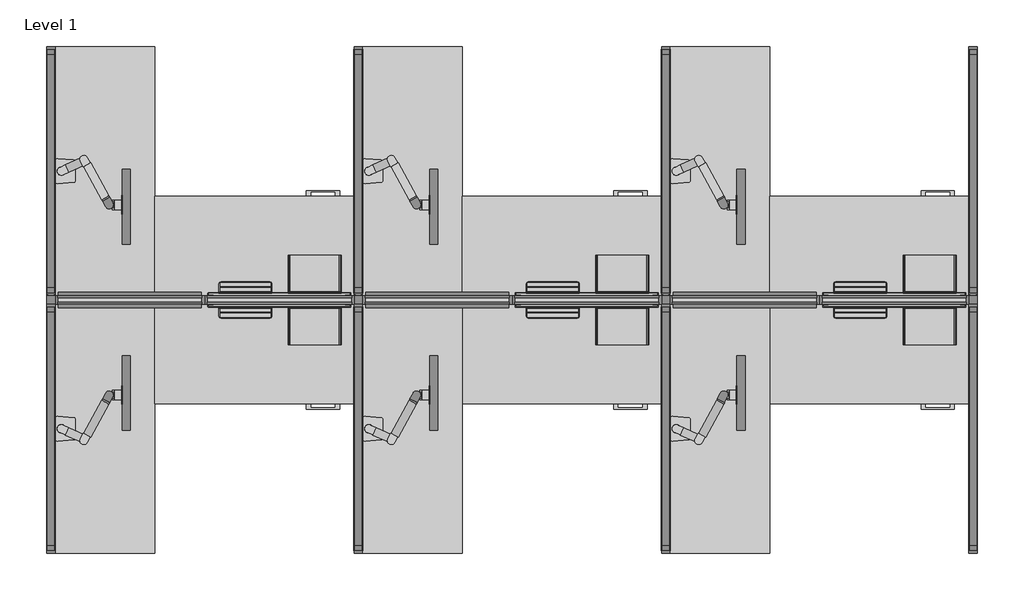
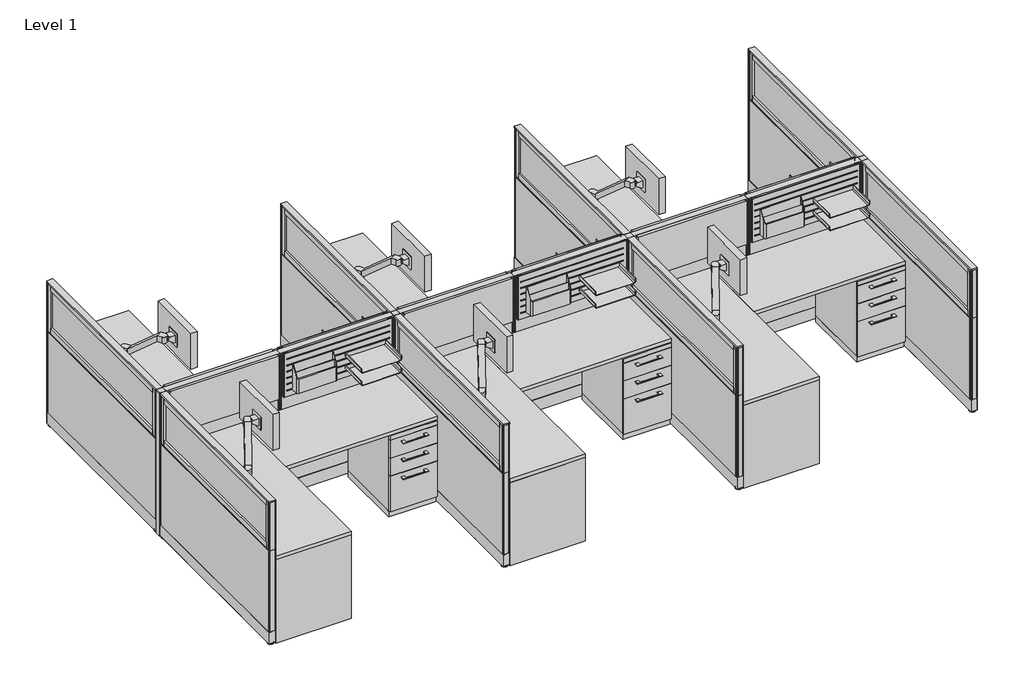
# One storey, incomplete: 80 furniture elements.
"""IFC4 building model written with IfcOpenShell, lengths in millimetres."""

from ifc_helpers import new_model, si_unit, origin, place, context, project, spatial, transform, mapped, element, save
from components import furniture_095f3b67, furniture_0ba0aaf9, furniture_16h_36w_87c6376e, furniture_16h_36w_b10e970e, furniture_16h_36w_8c3512c3, furniture_16h_36w_739b73f6, furniture_3_way_intersection_228444dd, furniture_36w_48h_2bd5d2fd, furniture_36w_48h_49c94051, furniture_4_way_intersection_cb2a0617, furniture_60w_16h_51d2d3f0, furniture_60w_16h_2723d1e0, furniture_60w_32h_4a79a10c, furniture_60w_32h_e9c478c7, haworth_belong_tool_hangingsorter_sorter_b643d65a, haworth_belong_tool_hangingsorter_sorter_caf348c0, haworth_belong_tool_trayshelf_hanging_document_tray_419b277c, haworth_belong_tool_trayshelf_hanging_document_tray_81856eff, haworth_compose_worksurface_rectangular_48w_24d_891c8413, haworth_compose_worksurface_rectangular_48w_24d_c59dcc68, haworth_compose_worksurface_rectangular_60w_24d_50b8101e, haworth_compose_worksurface_rectangular_60w_24d_3e0ca9f9, single_monitor_arm_d5a820ab, single_monitor_arm_2e3e4fff

model = new_model("IFC4")

# Units and contexts
model_context = context("Model", 3, world=origin())
ifc_project = project(units=[si_unit("LENGTHUNIT", "METRE", prefix="MILLI")], contexts=[model_context])

# Site, building, storey
site = spatial("IfcSite", under=ifc_project)
building = spatial("IfcBuilding", under=site)
storey = spatial("IfcBuildingStorey", under=building, Name="Level 1", Elevation=0.0)

# Furniture
placement = place(None, origin())
furniture_shape = furniture_095f3b67(model_context)
element("IfcFurniture", 1, ObjectType="Haworth_XSeries_Pedestal : 23d 15w 27h - Box Box File - Suspended", at=placement, inside=storey, context=model_context, shape_type="MappedRepresentation", body=[
    mapped(furniture_shape, transform((344.244681, -664.8927084, 0.0), x_axis=(1.0, 0.0, 0.0), y_axis=(0.0, 1.0, 0.0), z_axis=(0.0, 0.0, 1.0))),
])
element("IfcFurniture", 2, ObjectType="Haworth_XSeries_Pedestal : 23d 15w 27h - Box Box File - Suspended", at=placement, inside=storey, context=model_context, shape_type="MappedRepresentation", body=[
    mapped(furniture_shape, transform((2223.8796082, -664.8927084, 0.0), x_axis=(1.0, 0.0, 0.0), y_axis=(0.0, 1.0, 0.0), z_axis=(0.0, 0.0, 1.0))),
])
element("IfcFurniture", 3, ObjectType="Haworth_XSeries_Pedestal : 23d 15w 27h - Box Box File - Suspended", at=placement, inside=storey, context=model_context, shape_type="MappedRepresentation", body=[
    mapped(furniture_shape, transform((4103.4796082, -664.8927084, 0.0), x_axis=(1.0, 0.0, 0.0), y_axis=(0.0, 1.0, 0.0), z_axis=(0.0, 0.0, 1.0))),
])
furniture_2_shape = furniture_0ba0aaf9(model_context)
element("IfcFurniture", 4, ObjectType="Haworth_XSeries_Pedestal : 23d 15w 27h - Box Box File - Suspended", at=placement, inside=storey, context=model_context, shape_type="MappedRepresentation", body=[
    mapped(furniture_2_shape, transform((344.2446855, -766.492603, 0.0), x_axis=(0.9999999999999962, 8.74227783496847e-08, 0.0), y_axis=(-8.74227783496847e-08, 0.9999999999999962, 0.0), z_axis=(0.0, 0.0, 1.0))),
])
element("IfcFurniture", 5, ObjectType="Haworth_XSeries_Pedestal : 23d 15w 27h - Box Box File - Suspended", at=placement, inside=storey, context=model_context, shape_type="MappedRepresentation", body=[
    mapped(furniture_2_shape, transform((2223.8796127, -766.492603, 0.0), x_axis=(0.9999999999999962, 8.74227783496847e-08, 0.0), y_axis=(-8.74227783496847e-08, 0.9999999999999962, 0.0), z_axis=(0.0, 0.0, 1.0))),
])
element("IfcFurniture", 6, ObjectType="Haworth_XSeries_Pedestal : 23d 15w 27h - Box Box File - Suspended", at=placement, inside=storey, context=model_context, shape_type="MappedRepresentation", body=[
    mapped(furniture_2_shape, transform((4103.4796127, -766.492603, 0.0), x_axis=(0.9999999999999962, 8.74227783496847e-08, 0.0), y_axis=(-8.74227783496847e-08, 0.9999999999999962, 0.0), z_axis=(0.0, 0.0, 1.0))),
])
furniture_16h_36w_shape = furniture_16h_36w_87c6376e(model_context)
element("IfcFurniture", 7, ObjectType="Haworth_BeHold_Accessory_Tackboard : 16h 36w", at=placement, inside=storey, context=model_context, shape_type="MappedRepresentation", body=[
    mapped(furniture_16h_36w_shape, transform((-679.9786968, -387.0802084, -71.4375), x_axis=(1.0, 0.0, 0.0), y_axis=(0.0, 1.0, 0.0), z_axis=(0.0, 0.0, 1.0))),
])
element("IfcFurniture", 8, ObjectType="Haworth_BeHold_Accessory_Tackboard : 16h 36w", at=placement, inside=storey, context=model_context, shape_type="MappedRepresentation", body=[
    mapped(furniture_16h_36w_shape, transform((1199.6562304, -387.0802084, -71.4375), x_axis=(1.0, 0.0, 0.0), y_axis=(0.0, 1.0, 0.0), z_axis=(0.0, 0.0, 1.0))),
])
element("IfcFurniture", 9, ObjectType="Haworth_BeHold_Accessory_Tackboard : 16h 36w", at=placement, inside=storey, context=model_context, shape_type="MappedRepresentation", body=[
    mapped(furniture_16h_36w_shape, transform((3079.2562304, -387.0802084, -71.4375), x_axis=(1.0, 0.0, 0.0), y_axis=(0.0, 1.0, 0.0), z_axis=(0.0, 0.0, 1.0))),
])
furniture_16h_36w_2_shape = furniture_16h_36w_b10e970e(model_context)
element("IfcFurniture", 10, ObjectType="Haworth_BeHold_Accessory_SlatRail : 16h 36w", at=placement, inside=storey, context=model_context, shape_type="MappedRepresentation", body=[
    mapped(furniture_16h_36w_2_shape, transform((-79.2970075, -387.0802084, -71.4375), x_axis=(-1.0, 0.0, 0.0), y_axis=(0.0, -1.0, 0.0), z_axis=(0.0, 0.0, 1.0))),
])
element("IfcFurniture", 11, ObjectType="Haworth_BeHold_Accessory_SlatRail : 16h 36w", at=placement, inside=storey, context=model_context, shape_type="MappedRepresentation", body=[
    mapped(furniture_16h_36w_2_shape, transform((1800.3379197, -387.0802084, -71.4375), x_axis=(-1.0, 0.0, 0.0), y_axis=(0.0, -1.0, 0.0), z_axis=(0.0, 0.0, 1.0))),
])
element("IfcFurniture", 12, ObjectType="Haworth_BeHold_Accessory_SlatRail : 16h 36w", at=placement, inside=storey, context=model_context, shape_type="MappedRepresentation", body=[
    mapped(furniture_16h_36w_2_shape, transform((3679.9379197, -387.0802084, -71.4375), x_axis=(-1.0, 0.0, 0.0), y_axis=(0.0, -1.0, 0.0), z_axis=(0.0, 0.0, 1.0))),
])
furniture_16h_36w_3_shape = furniture_16h_36w_8c3512c3(model_context)
element("IfcFurniture", 13, ObjectType="Haworth_BeHold_Accessory_SlatRail : 16h 36w", at=placement, inside=storey, context=model_context, shape_type="MappedRepresentation", body=[
    mapped(furniture_16h_36w_3_shape, transform((-79.2969787, -1044.30514, -71.4375), x_axis=(-0.9999999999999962, -8.742277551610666e-08, 0.0), y_axis=(8.742277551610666e-08, -0.9999999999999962, 0.0), z_axis=(0.0, 0.0, 1.0))),
])
element("IfcFurniture", 14, ObjectType="Haworth_BeHold_Accessory_SlatRail : 16h 36w", at=placement, inside=storey, context=model_context, shape_type="MappedRepresentation", body=[
    mapped(furniture_16h_36w_3_shape, transform((1800.3379485, -1044.30514, -71.4375), x_axis=(-0.9999999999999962, -8.742277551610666e-08, 0.0), y_axis=(8.742277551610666e-08, -0.9999999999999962, 0.0), z_axis=(0.0, 0.0, 1.0))),
])
element("IfcFurniture", 15, ObjectType="Haworth_BeHold_Accessory_SlatRail : 16h 36w", at=placement, inside=storey, context=model_context, shape_type="MappedRepresentation", body=[
    mapped(furniture_16h_36w_3_shape, transform((3679.9379485, -1044.30514, -71.4375), x_axis=(-0.9999999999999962, -8.742277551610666e-08, 0.0), y_axis=(8.742277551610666e-08, -0.9999999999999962, 0.0), z_axis=(0.0, 0.0, 1.0))),
])
furniture_16h_36w_4_shape = furniture_16h_36w_739b73f6(model_context)
element("IfcFurniture", 16, ObjectType="Haworth_BeHold_Accessory_Tackboard : 16h 36w", at=placement, inside=storey, context=model_context, shape_type="MappedRepresentation", body=[
    mapped(furniture_16h_36w_4_shape, transform((-679.9786681, -1044.3051925, -71.4375), x_axis=(0.9999999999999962, 8.742278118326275e-08, 0.0), y_axis=(-8.742278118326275e-08, 0.9999999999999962, 0.0), z_axis=(0.0, 0.0, 1.0))),
])
element("IfcFurniture", 17, ObjectType="Haworth_BeHold_Accessory_Tackboard : 16h 36w", at=placement, inside=storey, context=model_context, shape_type="MappedRepresentation", body=[
    mapped(furniture_16h_36w_4_shape, transform((1199.6562592, -1044.3051925, -71.4375), x_axis=(0.9999999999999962, 8.742278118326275e-08, 0.0), y_axis=(-8.742278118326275e-08, 0.9999999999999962, 0.0), z_axis=(0.0, 0.0, 1.0))),
])
element("IfcFurniture", 18, ObjectType="Haworth_BeHold_Accessory_Tackboard : 16h 36w", at=placement, inside=storey, context=model_context, shape_type="MappedRepresentation", body=[
    mapped(furniture_16h_36w_4_shape, transform((3079.2562592, -1044.3051925, -71.4375), x_axis=(0.9999999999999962, 8.742278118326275e-08, 0.0), y_axis=(-8.742278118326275e-08, 0.9999999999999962, 0.0), z_axis=(0.0, 0.0, 1.0))),
])
furniture_3_way_intersection_shape = furniture_3_way_intersection_228444dd(model_context)
element("IfcFurniture", 19, ObjectType="Haworth_UniGroupToo_Post : 3-Way Intersection", at=placement, inside=storey, context=model_context, shape_type="MappedRepresentation", body=[
    mapped(furniture_3_way_intersection_shape, transform((-1357.5553157, -715.6927301, 0.0), x_axis=(0.9999999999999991, 4.3711388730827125e-08, 0.0), y_axis=(-4.3711388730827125e-08, 0.9999999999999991, 0.0), z_axis=(0.0, 0.0, 1.0))),
])
furniture_36w_48h_shape = furniture_36w_48h_2bd5d2fd(model_context)
element("IfcFurniture", 20, ObjectType="Haworth_UniGroupToo_Panel_Solid : 36w 48h", at=placement, inside=storey, context=model_context, shape_type="MappedRepresentation", body=[
    mapped(furniture_36w_48h_shape, transform((-839.2781423, -715.6927273, 0.0), x_axis=(1.0, 0.0, 0.0), y_axis=(0.0, 1.0, 0.0), z_axis=(0.0, 0.0, 1.0))),
])
element("IfcFurniture", 21, ObjectType="Haworth_UniGroupToo_Panel_Solid : 36w 48h", at=placement, inside=storey, context=model_context, shape_type="MappedRepresentation", body=[
    mapped(furniture_36w_48h_shape, transform((1040.3567849, -715.6927273, 0.0), x_axis=(1.0, 0.0, 0.0), y_axis=(0.0, 1.0, 0.0), z_axis=(0.0, 0.0, 1.0))),
])
element("IfcFurniture", 22, ObjectType="Haworth_UniGroupToo_Panel_Solid : 36w 48h", at=placement, inside=storey, context=model_context, shape_type="MappedRepresentation", body=[
    mapped(furniture_36w_48h_shape, transform((2919.9567849, -715.6927273, 0.0), x_axis=(1.0, 0.0, 0.0), y_axis=(0.0, 1.0, 0.0), z_axis=(0.0, 0.0, 1.0))),
])
furniture_36w_48h_2_shape = furniture_36w_48h_49c94051(model_context)
element("IfcFurniture", 23, ObjectType="Haworth_UniGroupToo_Panel_Solid : 36w 48h", at=placement, inside=storey, context=model_context, shape_type="MappedRepresentation", body=[
    mapped(furniture_36w_48h_2_shape, transform((80.002438, -715.6927273, 0.0), x_axis=(-1.0, 0.0, 0.0), y_axis=(0.0, -1.0, 0.0), z_axis=(0.0, 0.0, 1.0))),
])
element("IfcFurniture", 24, ObjectType="Haworth_UniGroupToo_Panel_Solid : 36w 48h", at=placement, inside=storey, context=model_context, shape_type="MappedRepresentation", body=[
    mapped(furniture_36w_48h_2_shape, transform((1959.6373653, -715.6927273, 0.0), x_axis=(-1.0, 0.0, 0.0), y_axis=(0.0, -1.0, 0.0), z_axis=(0.0, 0.0, 1.0))),
])
element("IfcFurniture", 25, ObjectType="Haworth_UniGroupToo_Panel_Solid : 36w 48h", at=placement, inside=storey, context=model_context, shape_type="MappedRepresentation", body=[
    mapped(furniture_36w_48h_2_shape, transform((3839.2373653, -715.6927273, 0.0), x_axis=(-1.0, 0.0, 0.0), y_axis=(0.0, -1.0, 0.0), z_axis=(0.0, 0.0, 1.0))),
])
furniture_4_way_intersection_shape = furniture_4_way_intersection_cb2a0617(model_context)
element("IfcFurniture", 26, ObjectType="Haworth_UniGroupToo_Post : 4-Way Intersection", at=placement, inside=storey, context=model_context, shape_type="MappedRepresentation", body=[
    mapped(furniture_4_way_intersection_shape, transform((598.2796115, -715.6927301, 0.0), x_axis=(-0.9999999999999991, 4.3711388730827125e-08, 0.0), y_axis=(-4.3711388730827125e-08, -0.9999999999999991, 0.0), z_axis=(0.0, 0.0, 1.0))),
])
element("IfcFurniture", 27, ObjectType="Haworth_UniGroupToo_Post : 4-Way Intersection", at=placement, inside=storey, context=model_context, shape_type="MappedRepresentation", body=[
    mapped(furniture_4_way_intersection_shape, transform((2477.9145387, -715.6927301, 0.0), x_axis=(-0.9999999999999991, 4.3711388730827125e-08, 0.0), y_axis=(-4.3711388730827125e-08, -0.9999999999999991, 0.0), z_axis=(0.0, 0.0, 1.0))),
])
element("IfcFurniture", 28, ObjectType="Haworth_UniGroupToo_Post : 4-Way Intersection", at=placement, inside=storey, context=model_context, shape_type="MappedRepresentation", body=[
    mapped(furniture_4_way_intersection_shape, transform((4357.5145387, -715.6927301, 0.0), x_axis=(-0.9999999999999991, 4.3711388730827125e-08, 0.0), y_axis=(-4.3711388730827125e-08, -0.9999999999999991, 0.0), z_axis=(0.0, 0.0, 1.0))),
])
furniture_60w_16h_shape = furniture_60w_16h_51d2d3f0(model_context)
element("IfcFurniture", 29, ObjectType="Haworth_UniGroupToo_Panel_GlazedAddOn : 60w 16h", at=placement, inside=storey, context=model_context, shape_type="MappedRepresentation", body=[
    mapped(furniture_60w_16h_shape, transform((-1319.4553501, 69.2669803, -406.4), x_axis=(-4.37113865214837e-08, 0.9999999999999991, 0.0), y_axis=(-0.9999999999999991, -4.37113865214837e-08, 0.0), z_axis=(0.0, 0.0, 1.0))),
])
element("IfcFurniture", 30, ObjectType="Haworth_UniGroupToo_Panel_GlazedAddOn : 60w 16h", at=placement, inside=storey, context=model_context, shape_type="MappedRepresentation", body=[
    mapped(furniture_60w_16h_shape, transform((560.1795772, 69.2669803, -406.4), x_axis=(-4.37113865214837e-08, 0.9999999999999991, 0.0), y_axis=(-0.9999999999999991, -4.37113865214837e-08, 0.0), z_axis=(0.0, 0.0, 1.0))),
])
element("IfcFurniture", 31, ObjectType="Haworth_UniGroupToo_Panel_GlazedAddOn : 60w 16h", at=placement, inside=storey, context=model_context, shape_type="MappedRepresentation", body=[
    mapped(furniture_60w_16h_shape, transform((2439.7795772, 69.2669803, -406.4), x_axis=(-4.37113865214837e-08, 0.9999999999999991, 0.0), y_axis=(-0.9999999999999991, -4.37113865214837e-08, 0.0), z_axis=(0.0, 0.0, 1.0))),
])
element("IfcFurniture", 32, ObjectType="Haworth_UniGroupToo_Panel_GlazedAddOn : 60w 16h", at=placement, inside=storey, context=model_context, shape_type="MappedRepresentation", body=[
    mapped(furniture_60w_16h_shape, transform((4319.4145044, 69.2669803, -406.4), x_axis=(-4.37113865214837e-08, 0.9999999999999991, 0.0), y_axis=(-0.9999999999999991, -4.37113865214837e-08, 0.0), z_axis=(0.0, 0.0, 1.0))),
])
furniture_60w_16h_2_shape = furniture_60w_16h_2723d1e0(model_context)
element("IfcFurniture", 33, ObjectType="Haworth_UniGroupToo_Panel_GlazedAddOn : 60w 16h", at=placement, inside=storey, context=model_context, shape_type="MappedRepresentation", body=[
    mapped(furniture_60w_16h_2_shape, transform((-1319.4552814, -1500.6524372, -406.4), x_axis=(4.3711391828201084e-08, -0.9999999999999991, 0.0), y_axis=(0.9999999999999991, 4.3711391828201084e-08, 0.0), z_axis=(0.0, 0.0, 1.0))),
])
element("IfcFurniture", 34, ObjectType="Haworth_UniGroupToo_Panel_GlazedAddOn : 60w 16h", at=placement, inside=storey, context=model_context, shape_type="MappedRepresentation", body=[
    mapped(furniture_60w_16h_2_shape, transform((560.1796458, -1500.6524372, -406.4), x_axis=(4.3711391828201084e-08, -0.9999999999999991, 0.0), y_axis=(0.9999999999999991, 4.3711391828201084e-08, 0.0), z_axis=(0.0, 0.0, 1.0))),
])
element("IfcFurniture", 35, ObjectType="Haworth_UniGroupToo_Panel_GlazedAddOn : 60w 16h", at=placement, inside=storey, context=model_context, shape_type="MappedRepresentation", body=[
    mapped(furniture_60w_16h_2_shape, transform((2439.7796458, -1500.6524372, -406.4), x_axis=(4.3711391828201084e-08, -0.9999999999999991, 0.0), y_axis=(0.9999999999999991, 4.3711391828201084e-08, 0.0), z_axis=(0.0, 0.0, 1.0))),
])
element("IfcFurniture", 36, ObjectType="Haworth_UniGroupToo_Panel_GlazedAddOn : 60w 16h", at=placement, inside=storey, context=model_context, shape_type="MappedRepresentation", body=[
    mapped(furniture_60w_16h_2_shape, transform((4319.414573, -1500.6524372, -406.4), x_axis=(4.3711391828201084e-08, -0.9999999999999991, 0.0), y_axis=(0.9999999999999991, 4.3711391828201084e-08, 0.0), z_axis=(0.0, 0.0, 1.0))),
])
furniture_60w_32h_shape = furniture_60w_32h_4a79a10c(model_context)
element("IfcFurniture", 37, ObjectType="Haworth_UniGroupToo_Panel_Solid : 60w 32h", at=placement, inside=storey, context=model_context, shape_type="MappedRepresentation", body=[
    mapped(furniture_60w_32h_shape, transform((-1319.4553501, 69.2669814, 0.0), x_axis=(-4.371139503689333e-08, 0.9999999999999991, 0.0), y_axis=(-0.9999999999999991, -4.371139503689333e-08, 0.0), z_axis=(0.0, 0.0, 1.0))),
])
element("IfcFurniture", 38, ObjectType="Haworth_UniGroupToo_Panel_Solid : 60w 32h", at=placement, inside=storey, context=model_context, shape_type="MappedRepresentation", body=[
    mapped(furniture_60w_32h_shape, transform((560.1795772, 69.2669814, 0.0), x_axis=(-4.371139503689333e-08, 0.9999999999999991, 0.0), y_axis=(-0.9999999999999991, -4.371139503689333e-08, 0.0), z_axis=(0.0, 0.0, 1.0))),
])
element("IfcFurniture", 39, ObjectType="Haworth_UniGroupToo_Panel_Solid : 60w 32h", at=placement, inside=storey, context=model_context, shape_type="MappedRepresentation", body=[
    mapped(furniture_60w_32h_shape, transform((2439.7795772, 69.2669814, 0.0), x_axis=(-4.371139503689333e-08, 0.9999999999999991, 0.0), y_axis=(-0.9999999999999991, -4.371139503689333e-08, 0.0), z_axis=(0.0, 0.0, 1.0))),
])
element("IfcFurniture", 40, ObjectType="Haworth_UniGroupToo_Panel_Solid : 60w 32h", at=placement, inside=storey, context=model_context, shape_type="MappedRepresentation", body=[
    mapped(furniture_60w_32h_shape, transform((4319.4145044, 69.2669814, 0.0), x_axis=(-4.371139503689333e-08, 0.9999999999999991, 0.0), y_axis=(-0.9999999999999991, -4.371139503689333e-08, 0.0), z_axis=(0.0, 0.0, 1.0))),
])
furniture_60w_32h_2_shape = furniture_60w_32h_e9c478c7(model_context)
element("IfcFurniture", 41, ObjectType="Haworth_UniGroupToo_Panel_Solid : 60w 32h", at=placement, inside=storey, context=model_context, shape_type="MappedRepresentation", body=[
    mapped(furniture_60w_32h_2_shape, transform((-1319.4552814, -1500.6524383, 0.0), x_axis=(4.371138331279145e-08, -0.9999999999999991, 0.0), y_axis=(0.9999999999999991, 4.371138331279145e-08, 0.0), z_axis=(0.0, 0.0, 1.0))),
])
element("IfcFurniture", 42, ObjectType="Haworth_UniGroupToo_Panel_Solid : 60w 32h", at=placement, inside=storey, context=model_context, shape_type="MappedRepresentation", body=[
    mapped(furniture_60w_32h_2_shape, transform((560.1796458, -1500.6524383, 0.0), x_axis=(4.371138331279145e-08, -0.9999999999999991, 0.0), y_axis=(0.9999999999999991, 4.371138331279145e-08, 0.0), z_axis=(0.0, 0.0, 1.0))),
])
element("IfcFurniture", 43, ObjectType="Haworth_UniGroupToo_Panel_Solid : 60w 32h", at=placement, inside=storey, context=model_context, shape_type="MappedRepresentation", body=[
    mapped(furniture_60w_32h_2_shape, transform((2439.7796458, -1500.6524383, 0.0), x_axis=(4.371138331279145e-08, -0.9999999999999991, 0.0), y_axis=(0.9999999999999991, 4.371138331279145e-08, 0.0), z_axis=(0.0, 0.0, 1.0))),
])
element("IfcFurniture", 44, ObjectType="Haworth_UniGroupToo_Panel_Solid : 60w 32h", at=placement, inside=storey, context=model_context, shape_type="MappedRepresentation", body=[
    mapped(furniture_60w_32h_2_shape, transform((4319.414573, -1500.6524383, 0.0), x_axis=(4.371138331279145e-08, -0.9999999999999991, 0.0), y_axis=(0.9999999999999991, 4.371138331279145e-08, 0.0), z_axis=(0.0, 0.0, 1.0))),
])
haworth_belong_tool_hangingsorter_sorter_shape = haworth_belong_tool_hangingsorter_sorter_b643d65a(model_context)
element("IfcFurniture", 45, ObjectType="Haworth_Belong_Tool_HangingSorter : Sorter", at=placement, inside=storey, context=model_context, shape_type="MappedRepresentation", body=[
    mapped(haworth_belong_tool_hangingsorter_sorter_shape, transform((-294.6484214, -763.3176588, 895.064298), x_axis=(0.9999999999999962, 8.742277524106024e-08, 0.0), y_axis=(-8.742277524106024e-08, 0.9999999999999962, 0.0), z_axis=(0.0, 0.0, 1.0))),
])
element("IfcFurniture", 46, ObjectType="Haworth_Belong_Tool_HangingSorter : Sorter", at=placement, inside=storey, context=model_context, shape_type="MappedRepresentation", body=[
    mapped(haworth_belong_tool_hangingsorter_sorter_shape, transform((1584.9865058, -763.3176588, 895.064298), x_axis=(0.9999999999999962, 8.742277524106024e-08, 0.0), y_axis=(-8.742277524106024e-08, 0.9999999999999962, 0.0), z_axis=(0.0, 0.0, 1.0))),
])
element("IfcFurniture", 47, ObjectType="Haworth_Belong_Tool_HangingSorter : Sorter", at=placement, inside=storey, context=model_context, shape_type="MappedRepresentation", body=[
    mapped(haworth_belong_tool_hangingsorter_sorter_shape, transform((3464.5865058, -763.3176588, 895.064298), x_axis=(0.9999999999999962, 8.742277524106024e-08, 0.0), y_axis=(-8.742277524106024e-08, 0.9999999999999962, 0.0), z_axis=(0.0, 0.0, 1.0))),
])
haworth_belong_tool_hangingsorter_sorter_2_shape = haworth_belong_tool_hangingsorter_sorter_caf348c0(model_context)
element("IfcFurniture", 48, ObjectType="Haworth_Belong_Tool_HangingSorter : Sorter", at=placement, inside=storey, context=model_context, shape_type="MappedRepresentation", body=[
    mapped(haworth_belong_tool_hangingsorter_sorter_2_shape, transform((-294.6484256, -668.0677084, 895.064298), x_axis=(1.0, 0.0, 0.0), y_axis=(0.0, 1.0, 0.0), z_axis=(0.0, 0.0, 1.0))),
])
element("IfcFurniture", 49, ObjectType="Haworth_Belong_Tool_HangingSorter : Sorter", at=placement, inside=storey, context=model_context, shape_type="MappedRepresentation", body=[
    mapped(haworth_belong_tool_hangingsorter_sorter_2_shape, transform((1584.9865016, -668.0677084, 895.064298), x_axis=(1.0, 0.0, 0.0), y_axis=(0.0, 1.0, 0.0), z_axis=(0.0, 0.0, 1.0))),
])
element("IfcFurniture", 50, ObjectType="Haworth_Belong_Tool_HangingSorter : Sorter", at=placement, inside=storey, context=model_context, shape_type="MappedRepresentation", body=[
    mapped(haworth_belong_tool_hangingsorter_sorter_2_shape, transform((3464.5865016, -668.0677084, 895.064298), x_axis=(1.0, 0.0, 0.0), y_axis=(0.0, 1.0, 0.0), z_axis=(0.0, 0.0, 1.0))),
])
haworth_belong_tool_trayshelf_hanging_document_tray_shape = haworth_belong_tool_trayshelf_hanging_document_tray_419b277c(model_context)
element("IfcFurniture", 51, ObjectType="Haworth_Belong_Tool_TrayShelf : Hanging Document Tray", at=placement, inside=storey, context=model_context, shape_type="MappedRepresentation", body=[
    mapped(haworth_belong_tool_trayshelf_hanging_document_tray_shape, transform((129.172779, -763.3165093, 914.3682947), x_axis=(0.9999999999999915, 1.311341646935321e-07, 0.0), y_axis=(-1.311341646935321e-07, 0.9999999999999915, 0.0), z_axis=(0.0, 0.0, 1.0))),
])
element("IfcFurniture", 52, ObjectType="Haworth_Belong_Tool_TrayShelf : Hanging Document Tray", at=placement, inside=storey, context=model_context, shape_type="MappedRepresentation", body=[
    mapped(haworth_belong_tool_trayshelf_hanging_document_tray_shape, transform((129.172779, -763.3165093, 1020.0322938), x_axis=(0.9999999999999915, 1.311341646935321e-07, 0.0), y_axis=(-1.311341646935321e-07, 0.9999999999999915, 0.0), z_axis=(0.0, 0.0, 1.0))),
])
element("IfcFurniture", 53, ObjectType="Haworth_Belong_Tool_TrayShelf : Hanging Document Tray", at=placement, inside=storey, context=model_context, shape_type="MappedRepresentation", body=[
    mapped(haworth_belong_tool_trayshelf_hanging_document_tray_shape, transform((2008.8077062, -763.3165093, 914.3682947), x_axis=(0.9999999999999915, 1.311341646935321e-07, 0.0), y_axis=(-1.311341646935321e-07, 0.9999999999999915, 0.0), z_axis=(0.0, 0.0, 1.0))),
])
element("IfcFurniture", 54, ObjectType="Haworth_Belong_Tool_TrayShelf : Hanging Document Tray", at=placement, inside=storey, context=model_context, shape_type="MappedRepresentation", body=[
    mapped(haworth_belong_tool_trayshelf_hanging_document_tray_shape, transform((2008.8077062, -763.3165093, 1020.0322938), x_axis=(0.9999999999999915, 1.311341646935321e-07, 0.0), y_axis=(-1.311341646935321e-07, 0.9999999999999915, 0.0), z_axis=(0.0, 0.0, 1.0))),
])
element("IfcFurniture", 55, ObjectType="Haworth_Belong_Tool_TrayShelf : Hanging Document Tray", at=placement, inside=storey, context=model_context, shape_type="MappedRepresentation", body=[
    mapped(haworth_belong_tool_trayshelf_hanging_document_tray_shape, transform((3888.4077062, -763.3165093, 914.3682947), x_axis=(0.9999999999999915, 1.311341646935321e-07, 0.0), y_axis=(-1.311341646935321e-07, 0.9999999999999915, 0.0), z_axis=(0.0, 0.0, 1.0))),
])
element("IfcFurniture", 56, ObjectType="Haworth_Belong_Tool_TrayShelf : Hanging Document Tray", at=placement, inside=storey, context=model_context, shape_type="MappedRepresentation", body=[
    mapped(haworth_belong_tool_trayshelf_hanging_document_tray_shape, transform((3888.4077062, -763.3165093, 1020.0322938), x_axis=(0.9999999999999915, 1.311341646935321e-07, 0.0), y_axis=(-1.311341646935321e-07, 0.9999999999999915, 0.0), z_axis=(0.0, 0.0, 1.0))),
])
haworth_belong_tool_trayshelf_hanging_document_tray_2_shape = haworth_belong_tool_trayshelf_hanging_document_tray_81856eff(model_context)
element("IfcFurniture", 57, ObjectType="Haworth_Belong_Tool_TrayShelf : Hanging Document Tray", at=placement, inside=storey, context=model_context, shape_type="MappedRepresentation", body=[
    mapped(haworth_belong_tool_trayshelf_hanging_document_tray_2_shape, transform((129.1727748, -668.0688209, 914.3682947), x_axis=(0.9999999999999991, -4.371138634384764e-08, 0.0), y_axis=(4.371138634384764e-08, 0.9999999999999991, 0.0), z_axis=(0.0, 0.0, 1.0))),
])
element("IfcFurniture", 58, ObjectType="Haworth_Belong_Tool_TrayShelf : Hanging Document Tray", at=placement, inside=storey, context=model_context, shape_type="MappedRepresentation", body=[
    mapped(haworth_belong_tool_trayshelf_hanging_document_tray_2_shape, transform((129.1727748, -668.0688209, 1020.0322938), x_axis=(0.9999999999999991, -4.371138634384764e-08, 0.0), y_axis=(4.371138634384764e-08, 0.9999999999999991, 0.0), z_axis=(0.0, 0.0, 1.0))),
])
element("IfcFurniture", 59, ObjectType="Haworth_Belong_Tool_TrayShelf : Hanging Document Tray", at=placement, inside=storey, context=model_context, shape_type="MappedRepresentation", body=[
    mapped(haworth_belong_tool_trayshelf_hanging_document_tray_2_shape, transform((2008.8077021, -668.0688209, 914.3682947), x_axis=(0.9999999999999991, -4.371138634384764e-08, 0.0), y_axis=(4.371138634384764e-08, 0.9999999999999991, 0.0), z_axis=(0.0, 0.0, 1.0))),
])
element("IfcFurniture", 60, ObjectType="Haworth_Belong_Tool_TrayShelf : Hanging Document Tray", at=placement, inside=storey, context=model_context, shape_type="MappedRepresentation", body=[
    mapped(haworth_belong_tool_trayshelf_hanging_document_tray_2_shape, transform((2008.8077021, -668.0688209, 1020.0322938), x_axis=(0.9999999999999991, -4.371138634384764e-08, 0.0), y_axis=(4.371138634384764e-08, 0.9999999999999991, 0.0), z_axis=(0.0, 0.0, 1.0))),
])
element("IfcFurniture", 61, ObjectType="Haworth_Belong_Tool_TrayShelf : Hanging Document Tray", at=placement, inside=storey, context=model_context, shape_type="MappedRepresentation", body=[
    mapped(haworth_belong_tool_trayshelf_hanging_document_tray_2_shape, transform((3888.4077021, -668.0688209, 914.3682947), x_axis=(0.9999999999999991, -4.371138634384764e-08, 0.0), y_axis=(4.371138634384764e-08, 0.9999999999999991, 0.0), z_axis=(0.0, 0.0, 1.0))),
])
element("IfcFurniture", 62, ObjectType="Haworth_Belong_Tool_TrayShelf : Hanging Document Tray", at=placement, inside=storey, context=model_context, shape_type="MappedRepresentation", body=[
    mapped(haworth_belong_tool_trayshelf_hanging_document_tray_2_shape, transform((3888.4077021, -668.0688209, 1020.0322938), x_axis=(0.9999999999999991, -4.371138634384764e-08, 0.0), y_axis=(4.371138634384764e-08, 0.9999999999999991, 0.0), z_axis=(0.0, 0.0, 1.0))),
])
haworth_compose_worksurface_rectangular_48w_24d_shape = haworth_compose_worksurface_rectangular_48w_24d_891c8413(model_context)
element("IfcFurniture", 63, ObjectType="Haworth_Compose_Worksurface_Rectangular : 48w 24d", at=placement, inside=storey, context=model_context, shape_type="MappedRepresentation", body=[
    mapped(haworth_compose_worksurface_rectangular_48w_24d_shape, transform((-74.855319, -385.4927084, 0.0), x_axis=(1.0, 0.0, 0.0), y_axis=(0.0, 1.0, 0.0), z_axis=(0.0, 0.0, 1.0))),
])
element("IfcFurniture", 64, ObjectType="Haworth_Compose_Worksurface_Rectangular : 48w 24d", at=placement, inside=storey, context=model_context, shape_type="MappedRepresentation", body=[
    mapped(haworth_compose_worksurface_rectangular_48w_24d_shape, transform((1804.7796082, -385.4927084, 0.0), x_axis=(1.0, 0.0, 0.0), y_axis=(0.0, 1.0, 0.0), z_axis=(0.0, 0.0, 1.0))),
])
element("IfcFurniture", 65, ObjectType="Haworth_Compose_Worksurface_Rectangular : 48w 24d", at=placement, inside=storey, context=model_context, shape_type="MappedRepresentation", body=[
    mapped(haworth_compose_worksurface_rectangular_48w_24d_shape, transform((3684.3796082, -385.4927084, 0.0), x_axis=(1.0, 0.0, 0.0), y_axis=(0.0, 1.0, 0.0), z_axis=(0.0, 0.0, 1.0))),
])
haworth_compose_worksurface_rectangular_48w_24d_2_shape = haworth_compose_worksurface_rectangular_48w_24d_c59dcc68(model_context)
element("IfcFurniture", 66, ObjectType="Haworth_Compose_Worksurface_Rectangular : 48w 24d", at=placement, inside=storey, context=model_context, shape_type="MappedRepresentation", body=[
    mapped(haworth_compose_worksurface_rectangular_48w_24d_2_shape, transform((-74.8552901, -1045.8926396, 0.0), x_axis=(0.9999999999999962, 8.74227783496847e-08, 0.0), y_axis=(-8.74227783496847e-08, 0.9999999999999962, 0.0), z_axis=(0.0, 0.0, 1.0))),
])
element("IfcFurniture", 67, ObjectType="Haworth_Compose_Worksurface_Rectangular : 48w 24d", at=placement, inside=storey, context=model_context, shape_type="MappedRepresentation", body=[
    mapped(haworth_compose_worksurface_rectangular_48w_24d_2_shape, transform((1804.7796371, -1045.8926396, 0.0), x_axis=(0.9999999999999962, 8.74227783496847e-08, 0.0), y_axis=(-8.74227783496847e-08, 0.9999999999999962, 0.0), z_axis=(0.0, 0.0, 1.0))),
])
element("IfcFurniture", 68, ObjectType="Haworth_Compose_Worksurface_Rectangular : 48w 24d", at=placement, inside=storey, context=model_context, shape_type="MappedRepresentation", body=[
    mapped(haworth_compose_worksurface_rectangular_48w_24d_2_shape, transform((3684.3796371, -1045.8926396, 0.0), x_axis=(0.9999999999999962, 8.74227783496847e-08, 0.0), y_axis=(-8.74227783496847e-08, 0.9999999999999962, 0.0), z_axis=(0.0, 0.0, 1.0))),
])
haworth_compose_worksurface_rectangular_60w_24d_shape = haworth_compose_worksurface_rectangular_60w_24d_50b8101e(model_context)
element("IfcFurniture", 69, ObjectType="Haworth_Compose_Worksurface_Rectangular : 60w 24d", at=placement, inside=storey, context=model_context, shape_type="MappedRepresentation", body=[
    mapped(haworth_compose_worksurface_rectangular_60w_24d_shape, transform((-989.255319, 71.7072727, 0.0), x_axis=(0.0, -1.0, 0.0), y_axis=(1.0, 0.0, 0.0), z_axis=(0.0, 0.0, 1.0))),
])
element("IfcFurniture", 70, ObjectType="Haworth_Compose_Worksurface_Rectangular : 60w 24d", at=placement, inside=storey, context=model_context, shape_type="MappedRepresentation", body=[
    mapped(haworth_compose_worksurface_rectangular_60w_24d_shape, transform((890.3796082, 71.7072727, 0.0), x_axis=(0.0, -1.0, 0.0), y_axis=(1.0, 0.0, 0.0), z_axis=(0.0, 0.0, 1.0))),
])
element("IfcFurniture", 71, ObjectType="Haworth_Compose_Worksurface_Rectangular : 60w 24d", at=placement, inside=storey, context=model_context, shape_type="MappedRepresentation", body=[
    mapped(haworth_compose_worksurface_rectangular_60w_24d_shape, transform((2769.9796082, 71.7072727, 0.0), x_axis=(0.0, -1.0, 0.0), y_axis=(1.0, 0.0, 0.0), z_axis=(0.0, 0.0, 1.0))),
])
haworth_compose_worksurface_rectangular_60w_24d_2_shape = haworth_compose_worksurface_rectangular_60w_24d_3e0ca9f9(model_context)
element("IfcFurniture", 72, ObjectType="Haworth_Compose_Worksurface_Rectangular : 60w 24d", at=placement, inside=storey, context=model_context, shape_type="MappedRepresentation", body=[
    mapped(haworth_compose_worksurface_rectangular_60w_24d_2_shape, transform((-989.2552501, -1503.0927007, 0.0), x_axis=(-8.74227833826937e-08, 0.9999999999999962, 0.0), y_axis=(-0.9999999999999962, -8.74227833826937e-08, 0.0), z_axis=(0.0, 0.0, 1.0))),
])
element("IfcFurniture", 73, ObjectType="Haworth_Compose_Worksurface_Rectangular : 60w 24d", at=placement, inside=storey, context=model_context, shape_type="MappedRepresentation", body=[
    mapped(haworth_compose_worksurface_rectangular_60w_24d_2_shape, transform((890.3796771, -1503.0927007, 0.0), x_axis=(-8.74227833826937e-08, 0.9999999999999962, 0.0), y_axis=(-0.9999999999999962, -8.74227833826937e-08, 0.0), z_axis=(0.0, 0.0, 1.0))),
])
element("IfcFurniture", 74, ObjectType="Haworth_Compose_Worksurface_Rectangular : 60w 24d", at=placement, inside=storey, context=model_context, shape_type="MappedRepresentation", body=[
    mapped(haworth_compose_worksurface_rectangular_60w_24d_2_shape, transform((2769.9796771, -1503.0927007, 0.0), x_axis=(-8.74227833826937e-08, 0.9999999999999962, 0.0), y_axis=(-0.9999999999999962, -8.74227833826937e-08, 0.0), z_axis=(0.0, 0.0, 1.0))),
])
single_monitor_arm_shape = single_monitor_arm_d5a820ab(model_context)
element("IfcFurniture", 75, ObjectType="Haworth_Ergotron_MonitorArm_LX Dual : Single Monitor Arm", at=placement, inside=storey, context=model_context, shape_type="MappedRepresentation", body=[
    mapped(single_monitor_arm_shape, transform((-1255.0171305, 71.7072727, 0.0), x_axis=(0.0, 1.0, 0.0), y_axis=(-1.0, 0.0, 0.0), z_axis=(0.0, 0.0, 1.0))),
])
element("IfcFurniture", 76, ObjectType="Haworth_Ergotron_MonitorArm_LX Dual : Single Monitor Arm", at=placement, inside=storey, context=model_context, shape_type="MappedRepresentation", body=[
    mapped(single_monitor_arm_shape, transform((624.6177968, 71.7072727, 0.0), x_axis=(0.0, 1.0, 0.0), y_axis=(-1.0, 0.0, 0.0), z_axis=(0.0, 0.0, 1.0))),
])
element("IfcFurniture", 77, ObjectType="Haworth_Ergotron_MonitorArm_LX Dual : Single Monitor Arm", at=placement, inside=storey, context=model_context, shape_type="MappedRepresentation", body=[
    mapped(single_monitor_arm_shape, transform((2504.2177968, 71.7072727, 0.0), x_axis=(0.0, 1.0, 0.0), y_axis=(-1.0, 0.0, 0.0), z_axis=(0.0, 0.0, 1.0))),
])
single_monitor_arm_2_shape = single_monitor_arm_2e3e4fff(model_context)
element("IfcFurniture", 78, ObjectType="Haworth_Ergotron_MonitorArm_LX Dual : Single Monitor Arm", at=placement, inside=storey, context=model_context, shape_type="MappedRepresentation", body=[
    mapped(single_monitor_arm_2_shape, transform((-1255.0170616, -1503.0927239, 0.0), x_axis=(8.742278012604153e-08, -0.9999999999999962, 0.0), y_axis=(0.9999999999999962, 8.742278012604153e-08, 0.0), z_axis=(0.0, 0.0, 1.0))),
])
element("IfcFurniture", 79, ObjectType="Haworth_Ergotron_MonitorArm_LX Dual : Single Monitor Arm", at=placement, inside=storey, context=model_context, shape_type="MappedRepresentation", body=[
    mapped(single_monitor_arm_2_shape, transform((624.6178656, -1503.0927239, 0.0), x_axis=(8.742278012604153e-08, -0.9999999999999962, 0.0), y_axis=(0.9999999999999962, 8.742278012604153e-08, 0.0), z_axis=(0.0, 0.0, 1.0))),
])
element("IfcFurniture", 80, ObjectType="Haworth_Ergotron_MonitorArm_LX Dual : Single Monitor Arm", at=placement, inside=storey, context=model_context, shape_type="MappedRepresentation", body=[
    mapped(single_monitor_arm_2_shape, transform((2504.2178656, -1503.0927239, 0.0), x_axis=(8.742278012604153e-08, -0.9999999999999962, 0.0), y_axis=(0.9999999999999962, 8.742278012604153e-08, 0.0), z_axis=(0.0, 0.0, 1.0))),
])

save(model, "model.ifc")
